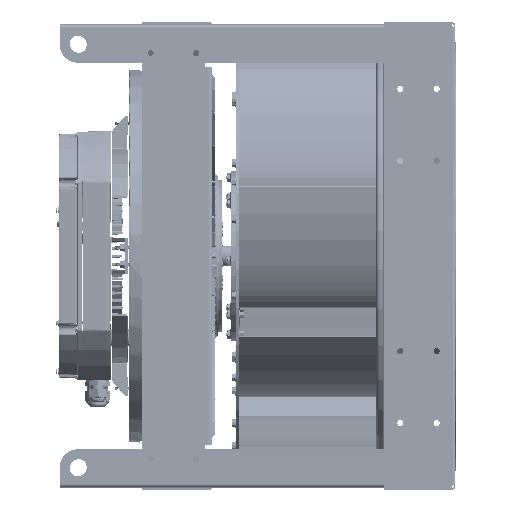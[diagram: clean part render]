
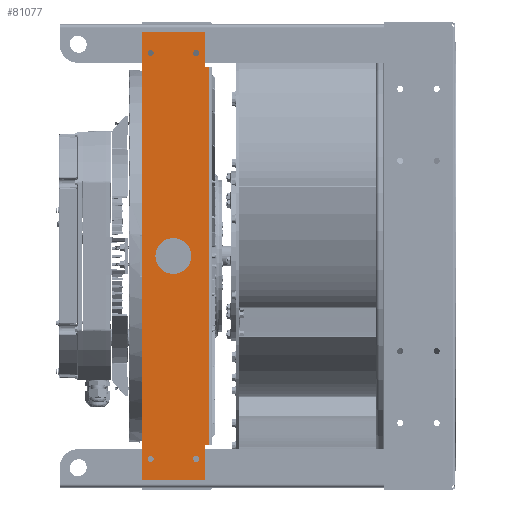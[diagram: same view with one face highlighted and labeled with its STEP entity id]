
A CAD part, left-side view. The second image highlights one B-rep face of the part: STEP entity #81077.
In plain terms, the highlighted planar face has unit normal (-1, 0, 0) as drawn and (0, 0, 1) by its records, which use the part's own axes.
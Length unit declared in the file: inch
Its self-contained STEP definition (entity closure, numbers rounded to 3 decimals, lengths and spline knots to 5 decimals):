
#2076 = ORIENTED_EDGE ( 'NONE', *, *, #222274, .T. ) ;
#5691 = ORIENTED_EDGE ( 'NONE', *, *, #38593, .F. ) ;
#6015 = EDGE_LOOP ( 'NONE', ( #146311 ) ) ;
#7505 = FACE_BOUND ( 'NONE', #126241, .T. ) ;
#10236 = FACE_OUTER_BOUND ( 'NONE', #245079, .T. ) ;
#12987 = FACE_BOUND ( 'NONE', #211146, .T. ) ;
#13856 = VECTOR ( 'NONE', #57244, 39.37008 ) ;
#14320 = DIRECTION ( 'NONE',  ( -1., 0., 0. ) ) ;
#17873 = VECTOR ( 'NONE', #125602, 39.37008 ) ;
#22574 = VERTEX_POINT ( 'NONE', #175515 ) ;
#22841 = VERTEX_POINT ( 'NONE', #110413 ) ;
#27131 = AXIS2_PLACEMENT_3D ( 'NONE', #135949, #93092, #256342 ) ;
#29678 = FACE_BOUND ( 'NONE', #6015, .T. ) ;
#32369 = VERTEX_POINT ( 'NONE', #53073 ) ;
#32400 = DIRECTION ( 'NONE',  ( -1., 0., 0. ) ) ;
#32631 = VECTOR ( 'NONE', #14320, 39.37008 ) ;
#35256 = VERTEX_POINT ( 'NONE', #44355 ) ;
#36695 = EDGE_LOOP ( 'NONE', ( #44690 ) ) ;
#38593 = EDGE_CURVE ( 'NONE', #176139, #176139, #90684, .T. ) ;
#42399 = DIRECTION ( 'NONE',  ( 0., 0., 1. ) ) ;
#44355 = CARTESIAN_POINT ( 'NONE',  ( -10.555, 1.77, 0.135 ) ) ;
#44690 = ORIENTED_EDGE ( 'NONE', *, *, #89249, .F. ) ;
#48688 = DIRECTION ( 'NONE',  ( -1., 0., 0. ) ) ;
#53073 = CARTESIAN_POINT ( 'NONE',  ( -11.133, 1.27, 0.135 ) ) ;
#57244 = DIRECTION ( 'NONE',  ( 0., -1., 0. ) ) ;
#61202 = CARTESIAN_POINT ( 'NONE',  ( -11.477, -1.27, 0.135 ) ) ;
#62059 = ORIENTED_EDGE ( 'NONE', *, *, #164075, .F. ) ;
#63054 = CARTESIAN_POINT ( 'NONE',  ( -12.465, 1.77, 0.135 ) ) ;
#63158 = CARTESIAN_POINT ( 'NONE',  ( -11.305, 1.27, 0.135 ) ) ;
#65379 = AXIS2_PLACEMENT_3D ( 'NONE', #63158, #42399, #104672 ) ;
#66664 = LINE ( 'NONE', #91562, #124827 ) ;
#67260 = DIRECTION ( 'NONE',  ( 0., 0., 1. ) ) ;
#70387 = VERTEX_POINT ( 'NONE', #261848 ) ;
#70568 = AXIS2_PLACEMENT_3D ( 'NONE', #256434, #108419, #155398 ) ;
#71122 = CARTESIAN_POINT ( 'NONE',  ( 0., 0., 0.135 ) ) ;
#76866 = EDGE_CURVE ( 'NONE', #140528, #35256, #133362, .T. ) ;
#79298 = LINE ( 'NONE', #98676, #32631 ) ;
#81077 = ADVANCED_FACE ( 'NONE', ( #7505, #10236, #221822, #29678, #12987, #243986 ), #155468, .F. ) ;
#86941 = ORIENTED_EDGE ( 'NONE', *, *, #127552, .T. ) ;
#87882 = EDGE_CURVE ( 'NONE', #22574, #137153, #108929, .T. ) ;
#89249 = EDGE_CURVE ( 'NONE', #90797, #90797, #189714, .T. ) ;
#90684 = CIRCLE ( 'NONE', #165700, 1. ) ;
#90797 = VERTEX_POINT ( 'NONE', #179230 ) ;
#91562 = CARTESIAN_POINT ( 'NONE',  ( 10.555, 1.9775, 0.135 ) ) ;
#93092 = DIRECTION ( 'NONE',  ( 0., 0., 1. ) ) ;
#95831 = EDGE_LOOP ( 'NONE', ( #129430 ) ) ;
#98320 = VERTEX_POINT ( 'NONE', #221470 ) ;
#98676 = CARTESIAN_POINT ( 'NONE',  ( -12.465, 1.77, 0.135 ) ) ;
#102956 = EDGE_CURVE ( 'NONE', #266532, #137153, #79298, .T. ) ;
#103203 = DIRECTION ( 'NONE',  ( -1., 0., 0. ) ) ;
#104672 = DIRECTION ( 'NONE',  ( 1., 0., 0. ) ) ;
#105790 = DIRECTION ( 'NONE',  ( 1., 0., 0. ) ) ;
#108419 = DIRECTION ( 'NONE',  ( 0., 0., 1. ) ) ;
#108758 = CARTESIAN_POINT ( 'NONE',  ( 11.305, -1.27, 0.135 ) ) ;
#108929 = LINE ( 'NONE', #146332, #17873 ) ;
#110413 = CARTESIAN_POINT ( 'NONE',  ( -12.465, -1.77, 0.135 ) ) ;
#118472 = EDGE_CURVE ( 'NONE', #32369, #32369, #255327, .T. ) ;
#119358 = VECTOR ( 'NONE', #105790, 39.37008 ) ;
#119498 = LINE ( 'NONE', #165040, #13856 ) ;
#122437 = CARTESIAN_POINT ( 'NONE',  ( 0., 0., 0.135 ) ) ;
#124809 = VERTEX_POINT ( 'NONE', #61202 ) ;
#124827 = VECTOR ( 'NONE', #48688, 39.37008 ) ;
#125602 = DIRECTION ( 'NONE',  ( 0., -1., 0. ) ) ;
#126209 = CIRCLE ( 'NONE', #188549, 0.172 ) ;
#126241 = EDGE_LOOP ( 'NONE', ( #5691 ) ) ;
#126534 = LINE ( 'NONE', #210863, #119358 ) ;
#127552 = EDGE_CURVE ( 'NONE', #245808, #22841, #119498, .T. ) ;
#129430 = ORIENTED_EDGE ( 'NONE', *, *, #227891, .F. ) ;
#133362 = LINE ( 'NONE', #260636, #159064 ) ;
#135949 = CARTESIAN_POINT ( 'NONE',  ( -11.305, -1.27, 0.135 ) ) ;
#137153 = VERTEX_POINT ( 'NONE', #221671 ) ;
#140528 = VERTEX_POINT ( 'NONE', #172289 ) ;
#146311 = ORIENTED_EDGE ( 'NONE', *, *, #118472, .F. ) ;
#146332 = CARTESIAN_POINT ( 'NONE',  ( 10.555, 1.9775, 0.135 ) ) ;
#155389 = CARTESIAN_POINT ( 'NONE',  ( 1., 0., 0.135 ) ) ;
#155398 = DIRECTION ( 'NONE',  ( -1., 0., 0. ) ) ;
#155468 = PLANE ( 'NONE',  #228737 ) ;
#159064 = VECTOR ( 'NONE', #195552, 39.37008 ) ;
#159370 = ORIENTED_EDGE ( 'NONE', *, *, #191059, .T. ) ;
#159388 = CIRCLE ( 'NONE', #27131, 0.172 ) ;
#164075 = EDGE_CURVE ( 'NONE', #98320, #98320, #126209, .T. ) ;
#165040 = CARTESIAN_POINT ( 'NONE',  ( -12.465, -1.77, 0.135 ) ) ;
#165700 = AXIS2_PLACEMENT_3D ( 'NONE', #122437, #187350, #188707 ) ;
#169897 = VECTOR ( 'NONE', #203664, 39.37008 ) ;
#172289 = CARTESIAN_POINT ( 'NONE',  ( -10.555, 1.9775, 0.135 ) ) ;
#175515 = CARTESIAN_POINT ( 'NONE',  ( 10.555, 1.9775, 0.135 ) ) ;
#176139 = VERTEX_POINT ( 'NONE', #155389 ) ;
#177726 = ORIENTED_EDGE ( 'NONE', *, *, #102956, .T. ) ;
#179230 = CARTESIAN_POINT ( 'NONE',  ( 11.133, 1.27, 0.135 ) ) ;
#185640 = CARTESIAN_POINT ( 'NONE',  ( 12.465, -1.77, 0.135 ) ) ;
#186162 = CARTESIAN_POINT ( 'NONE',  ( -12.465, 1.77, 0.135 ) ) ;
#187350 = DIRECTION ( 'NONE',  ( 0., 0., 1. ) ) ;
#188549 = AXIS2_PLACEMENT_3D ( 'NONE', #108758, #67260, #234646 ) ;
#188707 = DIRECTION ( 'NONE',  ( 1., 0., 0. ) ) ;
#189714 = CIRCLE ( 'NONE', #70568, 0.172 ) ;
#191059 = EDGE_CURVE ( 'NONE', #70387, #266532, #267360, .T. ) ;
#195552 = DIRECTION ( 'NONE',  ( 0., -1., 0. ) ) ;
#203664 = DIRECTION ( 'NONE',  ( 0., 1., 0. ) ) ;
#210863 = CARTESIAN_POINT ( 'NONE',  ( -12.465, -1.77, 0.135 ) ) ;
#211146 = EDGE_LOOP ( 'NONE', ( #62059 ) ) ;
#221470 = CARTESIAN_POINT ( 'NONE',  ( 11.477, -1.27, 0.135 ) ) ;
#221671 = CARTESIAN_POINT ( 'NONE',  ( 10.555, 1.77, 0.135 ) ) ;
#221822 = FACE_BOUND ( 'NONE', #95831, .T. ) ;
#222274 = EDGE_CURVE ( 'NONE', #22841, #70387, #126534, .T. ) ;
#226176 = ORIENTED_EDGE ( 'NONE', *, *, #76866, .T. ) ;
#227891 = EDGE_CURVE ( 'NONE', #124809, #124809, #159388, .T. ) ;
#228737 = AXIS2_PLACEMENT_3D ( 'NONE', #71122, #238501, #32400 ) ;
#231241 = EDGE_CURVE ( 'NONE', #22574, #140528, #66664, .T. ) ;
#231791 = LINE ( 'NONE', #186162, #264146 ) ;
#234646 = DIRECTION ( 'NONE',  ( 1., 0., 0. ) ) ;
#238501 = DIRECTION ( 'NONE',  ( 0., 0., -1. ) ) ;
#243035 = ORIENTED_EDGE ( 'NONE', *, *, #231241, .T. ) ;
#243986 = FACE_BOUND ( 'NONE', #36695, .T. ) ;
#245079 = EDGE_LOOP ( 'NONE', ( #86941, #2076, #159370, #177726, #268740, #243035, #226176, #250626 ) ) ;
#245610 = CARTESIAN_POINT ( 'NONE',  ( 12.465, 1.77, 0.135 ) ) ;
#245768 = EDGE_CURVE ( 'NONE', #35256, #245808, #231791, .T. ) ;
#245808 = VERTEX_POINT ( 'NONE', #63054 ) ;
#250626 = ORIENTED_EDGE ( 'NONE', *, *, #245768, .T. ) ;
#255327 = CIRCLE ( 'NONE', #65379, 0.172 ) ;
#256342 = DIRECTION ( 'NONE',  ( -1., 0., 0. ) ) ;
#256434 = CARTESIAN_POINT ( 'NONE',  ( 11.305, 1.27, 0.135 ) ) ;
#260636 = CARTESIAN_POINT ( 'NONE',  ( -10.555, 1.9775, 0.135 ) ) ;
#261848 = CARTESIAN_POINT ( 'NONE',  ( 12.465, -1.77, 0.135 ) ) ;
#264146 = VECTOR ( 'NONE', #103203, 39.37008 ) ;
#266532 = VERTEX_POINT ( 'NONE', #245610 ) ;
#267360 = LINE ( 'NONE', #185640, #169897 ) ;
#268740 = ORIENTED_EDGE ( 'NONE', *, *, #87882, .F. ) ;
